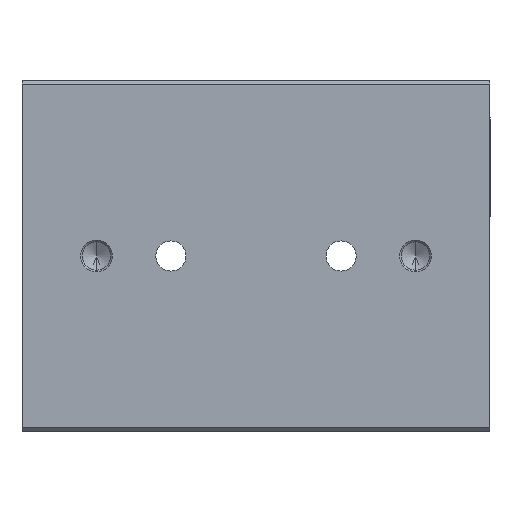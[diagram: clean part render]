
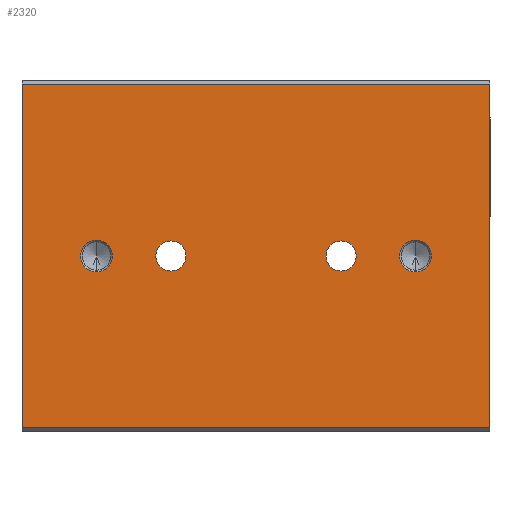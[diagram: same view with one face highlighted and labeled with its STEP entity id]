
A CAD part, front view. The second image highlights one B-rep face of the part: STEP entity #2320.
In plain terms, the highlighted planar face has unit normal (0, -1, 0).
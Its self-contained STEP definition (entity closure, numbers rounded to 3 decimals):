
#236 = ORIENTED_EDGE ( 'NONE', *, *, #7707, .F. ) ;
#1065 = CIRCLE ( 'NONE', #7898, 4.5 ) ;
#1182 = CIRCLE ( 'NONE', #10922, 4.25 ) ;
#1290 = EDGE_CURVE ( 'NONE', #25055, #16086, #1182, .T. ) ;
#2282 = EDGE_CURVE ( 'NONE', #11069, #3814, #24711, .T. ) ;
#2310 = VECTOR ( 'NONE', #42206, 1000. ) ;
#2320 = ADVANCED_FACE ( 'NONE', ( #43973, #5171, #34377, #42867, #33237 ), #35669, .F. ) ;
#3087 = CARTESIAN_POINT ( 'NONE',  ( 66., 0., -48.5 ) ) ;
#3129 = DIRECTION ( 'NONE',  ( 0., 0., -1. ) ) ;
#3699 = CIRCLE ( 'NONE', #37195, 4.5 ) ;
#3814 = VERTEX_POINT ( 'NONE', #42410 ) ;
#4152 = EDGE_LOOP ( 'NONE', ( #21153, #38848 ) ) ;
#4156 = AXIS2_PLACEMENT_3D ( 'NONE', #39299, #17450, #42925 ) ;
#4195 = CARTESIAN_POINT ( 'NONE',  ( -24., 0., 0. ) ) ;
#5062 = VERTEX_POINT ( 'NONE', #36169 ) ;
#5171 = FACE_BOUND ( 'NONE', #47317, .T. ) ;
#5689 = CARTESIAN_POINT ( 'NONE',  ( 24., 0., 0. ) ) ;
#6151 = CIRCLE ( 'NONE', #21829, 4.25 ) ;
#6157 = EDGE_LOOP ( 'NONE', ( #16811, #32936, #9162, #16036 ) ) ;
#7707 = EDGE_CURVE ( 'NONE', #9018, #19252, #19388, .T. ) ;
#7862 = VERTEX_POINT ( 'NONE', #16062 ) ;
#7878 = DIRECTION ( 'NONE',  ( 0., 0., -1. ) ) ;
#7898 = AXIS2_PLACEMENT_3D ( 'NONE', #36928, #15049, #40549 ) ;
#9018 = VERTEX_POINT ( 'NONE', #10454 ) ;
#9141 = CARTESIAN_POINT ( 'NONE',  ( 24., 0., -4.25 ) ) ;
#9162 = ORIENTED_EDGE ( 'NONE', *, *, #2282, .F. ) ;
#9377 = DIRECTION ( 'NONE',  ( 0., 0., -1. ) ) ;
#9918 = CARTESIAN_POINT ( 'NONE',  ( 66., 0., 48.5 ) ) ;
#10437 = EDGE_CURVE ( 'NONE', #19252, #9018, #6151, .T. ) ;
#10454 = CARTESIAN_POINT ( 'NONE',  ( -24., 0., -4.25 ) ) ;
#10922 = AXIS2_PLACEMENT_3D ( 'NONE', #5689, #31322, #9377 ) ;
#11069 = VERTEX_POINT ( 'NONE', #36269 ) ;
#12087 = LINE ( 'NONE', #20446, #2310 ) ;
#12180 = DIRECTION ( 'NONE',  ( 0., -1., 0. ) ) ;
#12810 = CARTESIAN_POINT ( 'NONE',  ( 45., 0., 0. ) ) ;
#13781 = CARTESIAN_POINT ( 'NONE',  ( -66., 0., -48.5 ) ) ;
#14576 = ORIENTED_EDGE ( 'NONE', *, *, #19973, .F. ) ;
#15049 = DIRECTION ( 'NONE',  ( 0., -1., 0. ) ) ;
#15200 = ORIENTED_EDGE ( 'NONE', *, *, #30344, .F. ) ;
#15367 = CARTESIAN_POINT ( 'NONE',  ( 24., 0., 0. ) ) ;
#15695 = ORIENTED_EDGE ( 'NONE', *, *, #1290, .F. ) ;
#16036 = ORIENTED_EDGE ( 'NONE', *, *, #43331, .F. ) ;
#16062 = CARTESIAN_POINT ( 'NONE',  ( -45., 0., 4.5 ) ) ;
#16086 = VERTEX_POINT ( 'NONE', #27707 ) ;
#16515 = DIRECTION ( 'NONE',  ( 0., 0., -1. ) ) ;
#16811 = ORIENTED_EDGE ( 'NONE', *, *, #19431, .F. ) ;
#17443 = CARTESIAN_POINT ( 'NONE',  ( 45., 0., -4.5 ) ) ;
#17450 = DIRECTION ( 'NONE',  ( 0., 1., 0. ) ) ;
#17517 = LINE ( 'NONE', #13781, #27265 ) ;
#18811 = AXIS2_PLACEMENT_3D ( 'NONE', #15367, #40853, #19044 ) ;
#19044 = DIRECTION ( 'NONE',  ( 0., 0., -1. ) ) ;
#19252 = VERTEX_POINT ( 'NONE', #41900 ) ;
#19289 = EDGE_CURVE ( 'NONE', #3814, #26829, #12087, .T. ) ;
#19388 = CIRCLE ( 'NONE', #25478, 4.25 ) ;
#19431 = EDGE_CURVE ( 'NONE', #26829, #27416, #19547, .T. ) ;
#19547 = LINE ( 'NONE', #3087, #28164 ) ;
#19960 = EDGE_LOOP ( 'NONE', ( #33378, #15200 ) ) ;
#19973 = EDGE_CURVE ( 'NONE', #16086, #25055, #39503, .T. ) ;
#20446 = CARTESIAN_POINT ( 'NONE',  ( 66., 0., -48.5 ) ) ;
#20712 = CARTESIAN_POINT ( 'NONE',  ( -24., 0., 0. ) ) ;
#21004 = VERTEX_POINT ( 'NONE', #17443 ) ;
#21153 = ORIENTED_EDGE ( 'NONE', *, *, #24962, .F. ) ;
#21829 = AXIS2_PLACEMENT_3D ( 'NONE', #20712, #46094, #24389 ) ;
#24386 = CIRCLE ( 'NONE', #44132, 4.5 ) ;
#24389 = DIRECTION ( 'NONE',  ( 0., 0., -1. ) ) ;
#24711 = LINE ( 'NONE', #9918, #45098 ) ;
#24805 = EDGE_LOOP ( 'NONE', ( #236, #29806 ) ) ;
#24962 = EDGE_CURVE ( 'NONE', #33065, #7862, #24386, .T. ) ;
#25055 = VERTEX_POINT ( 'NONE', #9141 ) ;
#25115 = DIRECTION ( 'NONE',  ( 0., -1., 0. ) ) ;
#25478 = AXIS2_PLACEMENT_3D ( 'NONE', #4195, #29841, #7878 ) ;
#26829 = VERTEX_POINT ( 'NONE', #36133 ) ;
#27265 = VECTOR ( 'NONE', #32017, 1000. ) ;
#27416 = VERTEX_POINT ( 'NONE', #41067 ) ;
#27707 = CARTESIAN_POINT ( 'NONE',  ( 24., 0., 4.25 ) ) ;
#28164 = VECTOR ( 'NONE', #43146, 1000. ) ;
#29806 = ORIENTED_EDGE ( 'NONE', *, *, #10437, .F. ) ;
#29841 = DIRECTION ( 'NONE',  ( 0., -1., 0. ) ) ;
#30344 = EDGE_CURVE ( 'NONE', #5062, #21004, #32765, .T. ) ;
#31322 = DIRECTION ( 'NONE',  ( 0., -1., 0. ) ) ;
#31847 = DIRECTION ( 'NONE',  ( 1., 0., 0. ) ) ;
#32017 = DIRECTION ( 'NONE',  ( 0., 0., 1. ) ) ;
#32765 = CIRCLE ( 'NONE', #39405, 4.5 ) ;
#32936 = ORIENTED_EDGE ( 'NONE', *, *, #19289, .F. ) ;
#33065 = VERTEX_POINT ( 'NONE', #42779 ) ;
#33237 = FACE_BOUND ( 'NONE', #4152, .T. ) ;
#33244 = EDGE_CURVE ( 'NONE', #21004, #5062, #1065, .T. ) ;
#33378 = ORIENTED_EDGE ( 'NONE', *, *, #33244, .F. ) ;
#34084 = CARTESIAN_POINT ( 'NONE',  ( -45., 0., 0. ) ) ;
#34377 = FACE_BOUND ( 'NONE', #24805, .T. ) ;
#35669 = PLANE ( 'NONE',  #4156 ) ;
#36133 = CARTESIAN_POINT ( 'NONE',  ( 66., 0., -48.5 ) ) ;
#36169 = CARTESIAN_POINT ( 'NONE',  ( 45., 0., 4.5 ) ) ;
#36269 = CARTESIAN_POINT ( 'NONE',  ( -66., 0., 48.5 ) ) ;
#36928 = CARTESIAN_POINT ( 'NONE',  ( 45., 0., 0. ) ) ;
#37195 = AXIS2_PLACEMENT_3D ( 'NONE', #46831, #25115, #3129 ) ;
#37751 = DIRECTION ( 'NONE',  ( 0., 0., -1. ) ) ;
#38378 = DIRECTION ( 'NONE',  ( 0., -1., 0. ) ) ;
#38848 = ORIENTED_EDGE ( 'NONE', *, *, #45559, .F. ) ;
#39299 = CARTESIAN_POINT ( 'NONE',  ( 66., 0., -48.5 ) ) ;
#39405 = AXIS2_PLACEMENT_3D ( 'NONE', #12810, #38378, #16515 ) ;
#39503 = CIRCLE ( 'NONE', #18811, 4.25 ) ;
#40549 = DIRECTION ( 'NONE',  ( 0., 0., -1. ) ) ;
#40853 = DIRECTION ( 'NONE',  ( 0., -1., 0. ) ) ;
#41067 = CARTESIAN_POINT ( 'NONE',  ( -66., 0., -48.5 ) ) ;
#41900 = CARTESIAN_POINT ( 'NONE',  ( -24., 0., 4.25 ) ) ;
#42206 = DIRECTION ( 'NONE',  ( 0., 0., -1. ) ) ;
#42410 = CARTESIAN_POINT ( 'NONE',  ( 66., 0., 48.5 ) ) ;
#42779 = CARTESIAN_POINT ( 'NONE',  ( -45., 0., -4.5 ) ) ;
#42867 = FACE_BOUND ( 'NONE', #19960, .T. ) ;
#42925 = DIRECTION ( 'NONE',  ( 0., 0., 1. ) ) ;
#43146 = DIRECTION ( 'NONE',  ( -1., 0., 0. ) ) ;
#43331 = EDGE_CURVE ( 'NONE', #27416, #11069, #17517, .T. ) ;
#43973 = FACE_OUTER_BOUND ( 'NONE', #6157, .T. ) ;
#44132 = AXIS2_PLACEMENT_3D ( 'NONE', #34084, #12180, #37751 ) ;
#45098 = VECTOR ( 'NONE', #31847, 1000. ) ;
#45559 = EDGE_CURVE ( 'NONE', #7862, #33065, #3699, .T. ) ;
#46094 = DIRECTION ( 'NONE',  ( 0., -1., 0. ) ) ;
#46831 = CARTESIAN_POINT ( 'NONE',  ( -45., 0., 0. ) ) ;
#47317 = EDGE_LOOP ( 'NONE', ( #15695, #14576 ) ) ;
